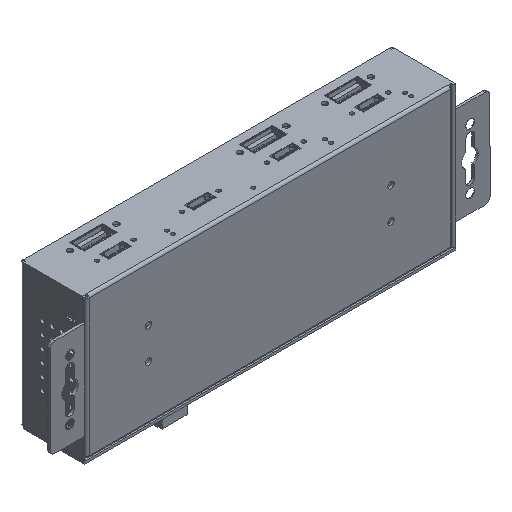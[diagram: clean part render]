
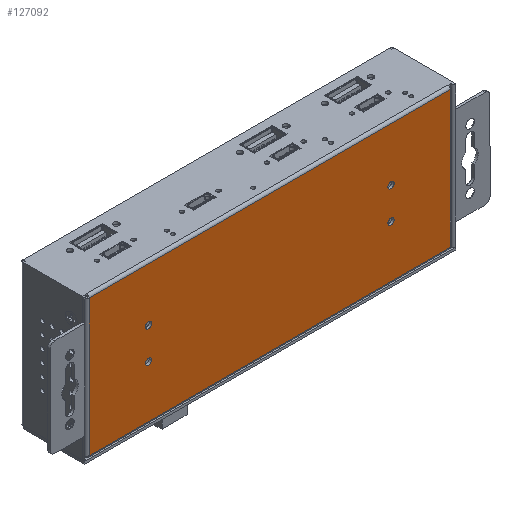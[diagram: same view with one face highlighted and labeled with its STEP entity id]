
A CAD part, isometric view. The second image highlights one B-rep face of the part: STEP entity #127092.
In plain terms, the highlighted planar face has unit normal (0, -1, 0).
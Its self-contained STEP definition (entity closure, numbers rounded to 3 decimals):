
#3009=FACE_BOUND('',#16667,.T.);
#3010=FACE_BOUND('',#16668,.T.);
#3011=FACE_BOUND('',#16669,.T.);
#3012=FACE_BOUND('',#16670,.T.);
#4827=CIRCLE('',#135974,1.265);
#4828=CIRCLE('',#135975,1.265);
#4829=CIRCLE('',#135976,1.265);
#4830=CIRCLE('',#135977,1.265);
#9729=FACE_OUTER_BOUND('',#16666,.T.);
#16666=EDGE_LOOP('',(#102408,#102409,#102410,#102411));
#16667=EDGE_LOOP('',(#102412));
#16668=EDGE_LOOP('',(#102413));
#16669=EDGE_LOOP('',(#102414));
#16670=EDGE_LOOP('',(#102415));
#29328=LINE('',#204577,#44566);
#29329=LINE('',#204579,#44567);
#29330=LINE('',#204581,#44568);
#29331=LINE('',#204582,#44569);
#44566=VECTOR('',#160608,10.);
#44567=VECTOR('',#160609,10.);
#44568=VECTOR('',#160610,10.);
#44569=VECTOR('',#160611,10.);
#58030=VERTEX_POINT('',#204575);
#58031=VERTEX_POINT('',#204576);
#58032=VERTEX_POINT('',#204578);
#58033=VERTEX_POINT('',#204580);
#58034=VERTEX_POINT('',#204583);
#58035=VERTEX_POINT('',#204585);
#58036=VERTEX_POINT('',#204587);
#58037=VERTEX_POINT('',#204589);
#73905=EDGE_CURVE('',#58030,#58031,#29328,.T.);
#73906=EDGE_CURVE('',#58032,#58030,#29329,.T.);
#73907=EDGE_CURVE('',#58032,#58033,#29330,.T.);
#73908=EDGE_CURVE('',#58033,#58031,#29331,.T.);
#73909=EDGE_CURVE('',#58034,#58034,#4827,.T.);
#73910=EDGE_CURVE('',#58035,#58035,#4828,.T.);
#73911=EDGE_CURVE('',#58036,#58036,#4829,.T.);
#73912=EDGE_CURVE('',#58037,#58037,#4830,.T.);
#102408=ORIENTED_EDGE('',*,*,#73905,.F.);
#102409=ORIENTED_EDGE('',*,*,#73906,.F.);
#102410=ORIENTED_EDGE('',*,*,#73907,.T.);
#102411=ORIENTED_EDGE('',*,*,#73908,.T.);
#102412=ORIENTED_EDGE('',*,*,#73909,.T.);
#102413=ORIENTED_EDGE('',*,*,#73910,.T.);
#102414=ORIENTED_EDGE('',*,*,#73911,.T.);
#102415=ORIENTED_EDGE('',*,*,#73912,.T.);
#121401=PLANE('',#135973);
#127092=ADVANCED_FACE('',(#9729,#3009,#3010,#3011,#3012),#121401,.T.);
#135973=AXIS2_PLACEMENT_3D('',#204574,#160606,#160607);
#135974=AXIS2_PLACEMENT_3D('',#204584,#160612,#160613);
#135975=AXIS2_PLACEMENT_3D('',#204586,#160614,#160615);
#135976=AXIS2_PLACEMENT_3D('',#204588,#160616,#160617);
#135977=AXIS2_PLACEMENT_3D('',#204590,#160618,#160619);
#160606=DIRECTION('center_axis',(0.,-1.,0.));
#160607=DIRECTION('ref_axis',(1.,0.,0.));
#160608=DIRECTION('',(-1.,0.,0.));
#160609=DIRECTION('',(0.,0.,-1.));
#160610=DIRECTION('',(-1.,0.,0.));
#160611=DIRECTION('',(0.,0.,-1.));
#160612=DIRECTION('center_axis',(0.,1.,0.));
#160613=DIRECTION('ref_axis',(0.,0.,-1.));
#160614=DIRECTION('center_axis',(0.,1.,0.));
#160615=DIRECTION('ref_axis',(0.,0.,-1.));
#160616=DIRECTION('center_axis',(0.,1.,0.));
#160617=DIRECTION('ref_axis',(0.,0.,-1.));
#160618=DIRECTION('center_axis',(0.,1.,0.));
#160619=DIRECTION('ref_axis',(0.,0.,-1.));
#204574=CARTESIAN_POINT('Origin',(-37.725,-6.,-28.35));
#204575=CARTESIAN_POINT('',(74.44,-6.,-56.52));
#204576=CARTESIAN_POINT('',(-74.44,-6.,-56.52));
#204577=CARTESIAN_POINT('',(18.863,-6.,-56.52));
#204578=CARTESIAN_POINT('',(74.44,-6.,-0.18));
#204579=CARTESIAN_POINT('',(74.44,-6.,-42.94));
#204580=CARTESIAN_POINT('',(-74.44,-6.,-0.18));
#204581=CARTESIAN_POINT('',(-56.587,-6.,-0.18));
#204582=CARTESIAN_POINT('',(-74.44,-6.,-42.94));
#204583=CARTESIAN_POINT('',(49.95,-6.,-20.906));
#204584=CARTESIAN_POINT('Origin',(49.95,-6.,-22.17));
#204585=CARTESIAN_POINT('',(-49.95,-6.,-20.906));
#204586=CARTESIAN_POINT('Origin',(-49.95,-6.,-22.17));
#204587=CARTESIAN_POINT('',(-49.95,-6.,-33.906));
#204588=CARTESIAN_POINT('Origin',(-49.95,-6.,-35.17));
#204589=CARTESIAN_POINT('',(49.95,-6.,-33.906));
#204590=CARTESIAN_POINT('Origin',(49.95,-6.,-35.17));
